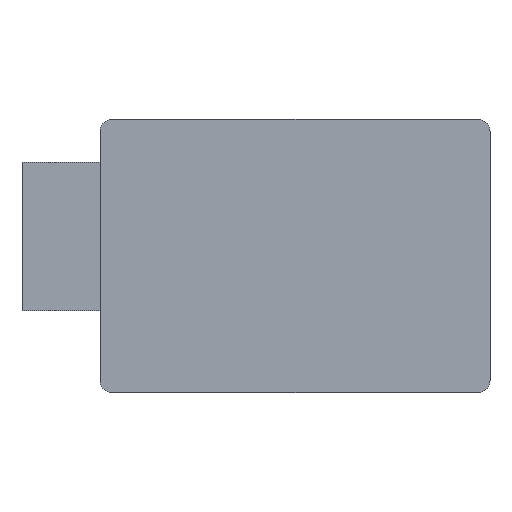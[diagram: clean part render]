
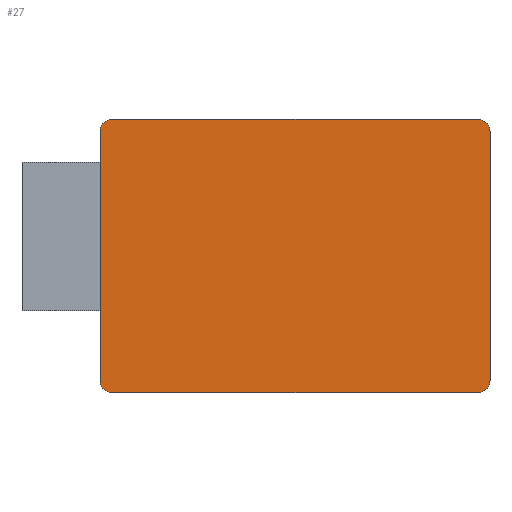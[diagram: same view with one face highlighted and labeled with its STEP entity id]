
A CAD part, top view. The second image highlights one B-rep face of the part: STEP entity #27.
In plain terms, the highlighted planar face has unit normal (0, 0, 1).
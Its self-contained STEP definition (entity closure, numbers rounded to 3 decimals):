
#27 = ADVANCED_FACE ( 'NONE', ( #1024 ), #365, .F. ) ;
#75 = CARTESIAN_POINT ( 'NONE',  ( 0., 3., 7. ) ) ;
#94 = CARTESIAN_POINT ( 'NONE',  ( 97., 67., 7. ) ) ;
#99 = DIRECTION ( 'NONE',  ( 0., 0., 1. ) ) ;
#142 = CARTESIAN_POINT ( 'NONE',  ( 0., 59., 7. ) ) ;
#185 = CARTESIAN_POINT ( 'NONE',  ( 100., 3., 7. ) ) ;
#191 = CARTESIAN_POINT ( 'NONE',  ( 0., 67., 7. ) ) ;
#192 = CARTESIAN_POINT ( 'NONE',  ( 3., 3., 7. ) ) ;
#193 = DIRECTION ( 'NONE',  ( 0., 1., 0. ) ) ;
#204 = CARTESIAN_POINT ( 'NONE',  ( 100., 67., 7. ) ) ;
#219 = DIRECTION ( 'NONE',  ( 0., 0., 1. ) ) ;
#237 = DIRECTION ( 'NONE',  ( -1., 0., 0. ) ) ;
#241 = CARTESIAN_POINT ( 'NONE',  ( 3., 67., 7. ) ) ;
#246 = DIRECTION ( 'NONE',  ( 0., 0., -1. ) ) ;
#247 = DIRECTION ( 'NONE',  ( -1., 0., 0. ) ) ;
#251 = CARTESIAN_POINT ( 'NONE',  ( 0., 3., 7. ) ) ;
#278 = DIRECTION ( 'NONE',  ( -1., 0., 0. ) ) ;
#365 = PLANE ( 'NONE',  #1405 ) ;
#367 = CARTESIAN_POINT ( 'NONE',  ( 3., 67., 7. ) ) ;
#405 = CARTESIAN_POINT ( 'NONE',  ( 97., 70., 7. ) ) ;
#468 = DIRECTION ( 'NONE',  ( 1., 0., 0. ) ) ;
#495 = CARTESIAN_POINT ( 'NONE',  ( 3., 0., 7. ) ) ;
#498 = DIRECTION ( 'NONE',  ( 1., 0., 0. ) ) ;
#501 = CARTESIAN_POINT ( 'NONE',  ( 100., 3., 7. ) ) ;
#517 = CARTESIAN_POINT ( 'NONE',  ( 0., 67., 7. ) ) ;
#534 = CARTESIAN_POINT ( 'NONE',  ( 0., 21., 7. ) ) ;
#540 = DIRECTION ( 'NONE',  ( -1., 0., 0. ) ) ;
#543 = DIRECTION ( 'NONE',  ( 0., 1., 0. ) ) ;
#546 = DIRECTION ( 'NONE',  ( 0., 0., 1. ) ) ;
#550 = DIRECTION ( 'NONE',  ( 0., 0., 1. ) ) ;
#554 = CARTESIAN_POINT ( 'NONE',  ( 3., 70., 7. ) ) ;
#559 = CARTESIAN_POINT ( 'NONE',  ( 97., 3., 7. ) ) ;
#566 = CARTESIAN_POINT ( 'NONE',  ( 0., 3., 7. ) ) ;
#567 = DIRECTION ( 'NONE',  ( -1., 0., 0. ) ) ;
#575 = DIRECTION ( 'NONE',  ( 0., -1., 0. ) ) ;
#586 = DIRECTION ( 'NONE',  ( 0., -1., 0. ) ) ;
#603 = CARTESIAN_POINT ( 'NONE',  ( 3., 70., 7. ) ) ;
#614 = CARTESIAN_POINT ( 'NONE',  ( 3., 0., 7. ) ) ;
#620 = CARTESIAN_POINT ( 'NONE',  ( 97., 0., 7. ) ) ;
#739 = ORIENTED_EDGE ( 'NONE', *, *, #1346, .T. ) ;
#741 = ORIENTED_EDGE ( 'NONE', *, *, #1286, .T. ) ;
#742 = ORIENTED_EDGE ( 'NONE', *, *, #1445, .T. ) ;
#743 = ORIENTED_EDGE ( 'NONE', *, *, #1304, .T. ) ;
#744 = ORIENTED_EDGE ( 'NONE', *, *, #1349, .F. ) ;
#747 = ORIENTED_EDGE ( 'NONE', *, *, #1343, .T. ) ;
#750 = ORIENTED_EDGE ( 'NONE', *, *, #1291, .T. ) ;
#751 = ORIENTED_EDGE ( 'NONE', *, *, #1307, .T. ) ;
#756 = ORIENTED_EDGE ( 'NONE', *, *, #1295, .T. ) ;
#770 = ORIENTED_EDGE ( 'NONE', *, *, #1441, .T. ) ;
#806 = LINE ( 'NONE', #75, #909 ) ;
#830 = LINE ( 'NONE', #517, #831 ) ;
#831 = VECTOR ( 'NONE', #193, 1000. ) ;
#832 = CIRCLE ( 'NONE', #1413, 3. ) ;
#833 = CIRCLE ( 'NONE', #1409, 3. ) ;
#881 = LINE ( 'NONE', #554, #886 ) ;
#884 = CIRCLE ( 'NONE', #1424, 3. ) ;
#886 = VECTOR ( 'NONE', #567, 1000. ) ;
#890 = CIRCLE ( 'NONE', #1427, 3. ) ;
#904 = LINE ( 'NONE', #501, #906 ) ;
#906 = VECTOR ( 'NONE', #543, 1000. ) ;
#909 = VECTOR ( 'NONE', #586, 1000. ) ;
#914 = LINE ( 'NONE', #495, #916 ) ;
#916 = VECTOR ( 'NONE', #498, 1000. ) ;
#922 = LINE ( 'NONE', #566, #923 ) ;
#923 = VECTOR ( 'NONE', #575, 1000. ) ;
#1024 = FACE_OUTER_BOUND ( 'NONE', #1125, .T. ) ;
#1125 = EDGE_LOOP ( 'NONE', ( #747, #742, #744, #741, #739, #770, #756, #750, #751, #743 ) ) ;
#1196 = VERTEX_POINT ( 'NONE', #405 ) ;
#1221 = VERTEX_POINT ( 'NONE', #142 ) ;
#1222 = VERTEX_POINT ( 'NONE', #534 ) ;
#1241 = VERTEX_POINT ( 'NONE', #251 ) ;
#1250 = VERTEX_POINT ( 'NONE', #614 ) ;
#1251 = VERTEX_POINT ( 'NONE', #603 ) ;
#1255 = VERTEX_POINT ( 'NONE', #191 ) ;
#1256 = VERTEX_POINT ( 'NONE', #185 ) ;
#1258 = VERTEX_POINT ( 'NONE', #620 ) ;
#1264 = VERTEX_POINT ( 'NONE', #204 ) ;
#1286 = EDGE_CURVE ( 'NONE', #1222, #1241, #806, .T. ) ;
#1291 = EDGE_CURVE ( 'NONE', #1256, #1264, #904, .T. ) ;
#1295 = EDGE_CURVE ( 'NONE', #1258, #1256, #890, .T. ) ;
#1304 = EDGE_CURVE ( 'NONE', #1196, #1251, #881, .T. ) ;
#1307 = EDGE_CURVE ( 'NONE', #1264, #1196, #884, .T. ) ;
#1343 = EDGE_CURVE ( 'NONE', #1251, #1255, #832, .T. ) ;
#1346 = EDGE_CURVE ( 'NONE', #1241, #1250, #833, .T. ) ;
#1349 = EDGE_CURVE ( 'NONE', #1222, #1221, #830, .T. ) ;
#1405 = AXIS2_PLACEMENT_3D ( 'NONE', #367, #246, #247 ) ;
#1409 = AXIS2_PLACEMENT_3D ( 'NONE', #192, #219, #540 ) ;
#1413 = AXIS2_PLACEMENT_3D ( 'NONE', #241, #550, #237 ) ;
#1424 = AXIS2_PLACEMENT_3D ( 'NONE', #94, #99, #278 ) ;
#1427 = AXIS2_PLACEMENT_3D ( 'NONE', #559, #546, #468 ) ;
#1441 = EDGE_CURVE ( 'NONE', #1250, #1258, #914, .T. ) ;
#1445 = EDGE_CURVE ( 'NONE', #1255, #1221, #922, .T. ) ;
